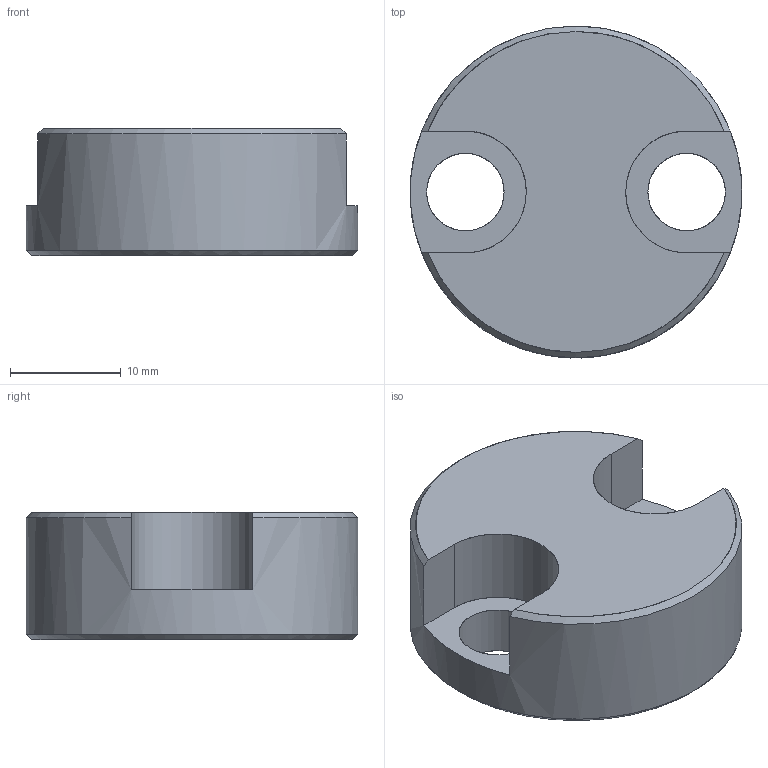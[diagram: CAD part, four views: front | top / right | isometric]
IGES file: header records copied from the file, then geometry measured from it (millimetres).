
Global section: file name: E:\UnigraphicsGraphicData\MISUMI_MOLD-PARTS\NX\3d_cphp30_02851_r00.igs; native system: NX V5.0; preprocessor: UGS NX IGES V5.0; author: MISUMI; date: 20101115.182528; units: millimetre
Bounding box: 30 x 30 x 11.5 mm (x, y, z)
Surface area: 2686.6 mm2 (no closed solid volume)
Topology: 0 solids, 0 shells, 16 faces, 146 edges, 143 vertices
Faces by surface type: bspline 16
